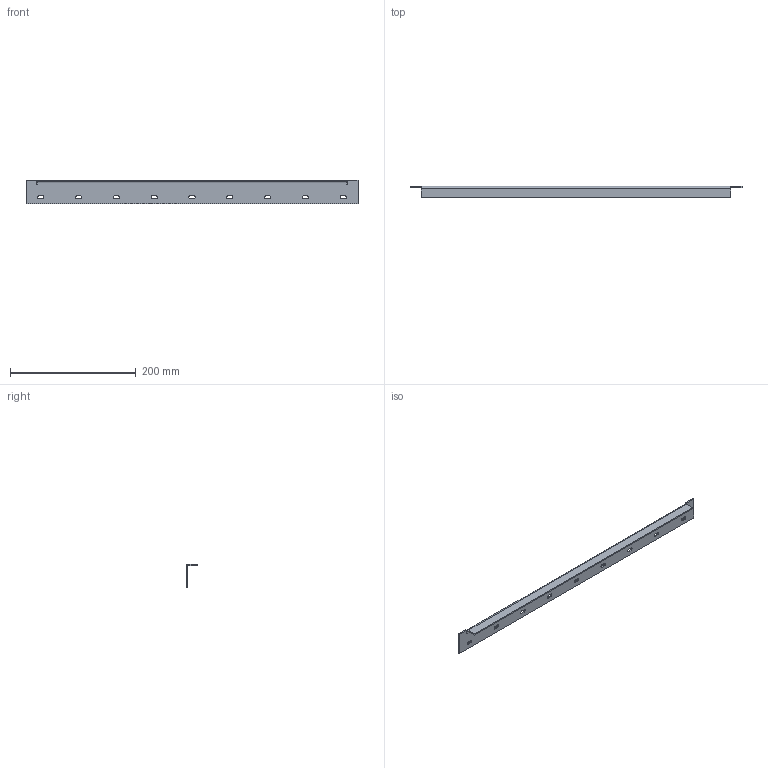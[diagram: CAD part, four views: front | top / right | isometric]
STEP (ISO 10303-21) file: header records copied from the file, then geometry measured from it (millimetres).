
FILE_DESCRIPTION (( 'STEP AP203' ), '1' );
FILE_NAME ('ORW-72.24.10.004 赶鎀鍧.STEP', '2025-10-13T13:18:08', ( '燴僽樥' ), ( '' ), 'SwSTEP 2.0', 'SolidWorks 2025', '' );
FILE_SCHEMA (( 'CONFIG_CONTROL_DESIGN' ));
Length unit declared in the file: millimetre
Products named in the file (1): ORW-72.24.10.004 Уголок
Bounding box: 527 x 18 x 37 mm (x, y, z)
Volume: 52614.1 mm3; surface area: 55447.7 mm2
Topology: 1 solids, 1 shells, 54 faces, 156 edges, 104 vertices
Faces by surface type: plane 34, cylinder 20
Entity records: 1891 total; most frequent: CARTESIAN_POINT 315, ORIENTED_EDGE 312, DIRECTION 306, EDGE_CURVE 156, LINE 116, VECTOR 116, VERTEX_POINT 104, AXIS2_PLACEMENT_3D 95
